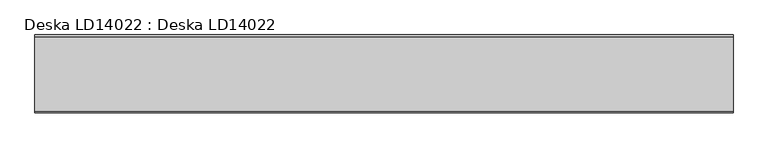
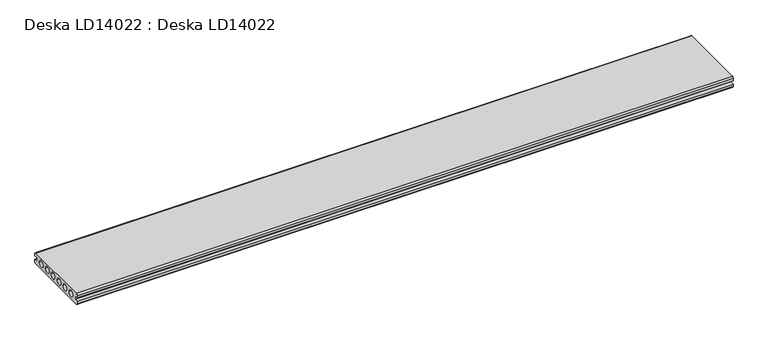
"""IFC4 building model written with IfcOpenShell, lengths in millimetres: proxy geometry, Deska LD14022 : Deska LD14022."""

from ifc_helpers import new_model, si_unit, point, frame, frame_2d, origin, place, context, project, spatial, polyline, circle_curve, trimmed, segment, composite_curve, outline, extrude, source, transform, mapped, element, save


def deska_ld14022_deska_ld14022_7ee519a8(model_context):
    return source(origin(), model_context, "Body", "SweptSolid", [
        extrude(outline(composite_curve([segment(polyline([(-7.0, 14.5), (-7.0, 7.5), (0.0, 7.5), (0.0, 3.0)]), True, "CONTINUOUS"), segment(trimmed(circle_curve(frame_2d((-3.0, 3.0)), 3.0), [point((0.0, 3.0))], [point((-3.0, 0.0))], False, "CARTESIAN"), True, "CONTINUOUS"), segment(polyline([(-3.0, 0.0), (-137.0, 0.0)]), True, "CONTINUOUS"), segment(trimmed(circle_curve(frame_2d((-137.0, 3.0)), 3.0), [point((-137.0, 0.0))], [point((-140.0, 3.0))], False, "CARTESIAN"), True, "CONTINUOUS"), segment(polyline([(-140.0, 3.0), (-140.0, 7.5), (-133.0, 7.5), (-133.0, 14.5), (-140.0, 14.5), (-140.0, 19.0)]), True, "CONTINUOUS"), segment(trimmed(circle_curve(frame_2d((-137.0, 19.0)), 3.0), [point((-140.0, 19.0))], [point((-137.0, 22.0))], False, "CARTESIAN"), True, "CONTINUOUS"), segment(polyline([(-137.0, 22.0), (-3.0, 22.0)]), True, "CONTINUOUS"), segment(trimmed(circle_curve(frame_2d((-3.0, 19.0)), 3.0), [point((-3.0, 22.0))], [point((0.0, 19.0))], False, "CARTESIAN"), True, "CONTINUOUS"), segment(polyline([(0.0, 19.0), (0.0, 14.5), (-7.0, 14.5)]), True, "CONTINUOUS")], self_intersect=False), holes=[composite_curve([segment(trimmed(circle_curve(frame_2d((-21.0, 11.0)), 6.0), [point((-15.0, 11.0))], [point((-27.0, 11.0))], True, "CARTESIAN"), True, "CONTINUOUS"), segment(trimmed(circle_curve(frame_2d((-21.0, 11.0)), 6.0), [point((-27.0, 11.0))], [point((-15.0, 11.0))], True, "CARTESIAN"), True, "CONTINUOUS")], self_intersect=False), composite_curve([segment(trimmed(circle_curve(frame_2d((-41.0, 11.0)), 6.0), [point((-35.0, 11.0))], [point((-47.0, 11.0))], True, "CARTESIAN"), True, "CONTINUOUS"), segment(trimmed(circle_curve(frame_2d((-41.0, 11.0)), 6.0), [point((-47.0, 11.0))], [point((-35.0, 11.0))], True, "CARTESIAN"), True, "CONTINUOUS")], self_intersect=False), composite_curve([segment(trimmed(circle_curve(frame_2d((-60.0, 11.0)), 6.0), [point((-54.0, 11.0))], [point((-66.0, 11.0))], True, "CARTESIAN"), True, "CONTINUOUS"), segment(trimmed(circle_curve(frame_2d((-60.0, 11.0)), 6.0), [point((-66.0, 11.0))], [point((-54.0, 11.0))], True, "CARTESIAN"), True, "CONTINUOUS")], self_intersect=False), composite_curve([segment(trimmed(circle_curve(frame_2d((-80.0, 11.0)), 6.0), [point((-74.0, 11.0))], [point((-86.0, 11.0))], True, "CARTESIAN"), True, "CONTINUOUS"), segment(trimmed(circle_curve(frame_2d((-80.0, 11.0)), 6.0), [point((-86.0, 11.0))], [point((-74.0, 11.0))], True, "CARTESIAN"), True, "CONTINUOUS")], self_intersect=False), composite_curve([segment(trimmed(circle_curve(frame_2d((-99.0, 11.0)), 6.0), [point((-93.0, 11.0))], [point((-105.0, 11.0))], True, "CARTESIAN"), True, "CONTINUOUS"), segment(trimmed(circle_curve(frame_2d((-99.0, 11.0)), 6.0), [point((-105.0, 11.0))], [point((-93.0, 11.0))], True, "CARTESIAN"), True, "CONTINUOUS")], self_intersect=False), composite_curve([segment(trimmed(circle_curve(frame_2d((-119.0, 11.0)), 6.0), [point((-113.0, 11.0))], [point((-125.0, 11.0))], True, "CARTESIAN"), True, "CONTINUOUS"), segment(trimmed(circle_curve(frame_2d((-119.0, 11.0)), 6.0), [point((-125.0, 11.0))], [point((-113.0, 11.0))], True, "CARTESIAN"), True, "CONTINUOUS")], self_intersect=False)]), frame((0.0, 0.0, 0.0), z_axis=(1.0, 0.0, 0.0), x_axis=(0.0, 1.0, 0.0)), (0.0, 0.0, 1.0), 1254.0),
    ])


if __name__ == "__main__":
    model = new_model("IFC4")
    model_context = context("Model", 3, world=origin())
    ifc_project = project(units=[si_unit("LENGTHUNIT", "METRE", prefix="MILLI")], contexts=[model_context])
    site = spatial("IfcSite", under=ifc_project)
    building = spatial("IfcBuilding", under=site)
    placement = place(None, origin())
    deska_ld14022_deska_ld14022_shape = deska_ld14022_deska_ld14022_7ee519a8(model_context)
    element("IfcBuildingElementProxy", 1, Name="Deska LD14022 : Deska LD14022", ObjectType="Deska LD14022 : Deska LD14022", at=placement, inside=building, context=model_context, shape_type="MappedRepresentation", body=[
        mapped(deska_ld14022_deska_ld14022_shape, transform((0.0, 0.0, 0.0), x_axis=(1.0, 0.0, 0.0), y_axis=(0.0, 1.0, 0.0), z_axis=(0.0, 0.0, 1.0))),
    ])
    save(model, "model.ifc")
